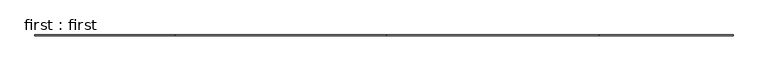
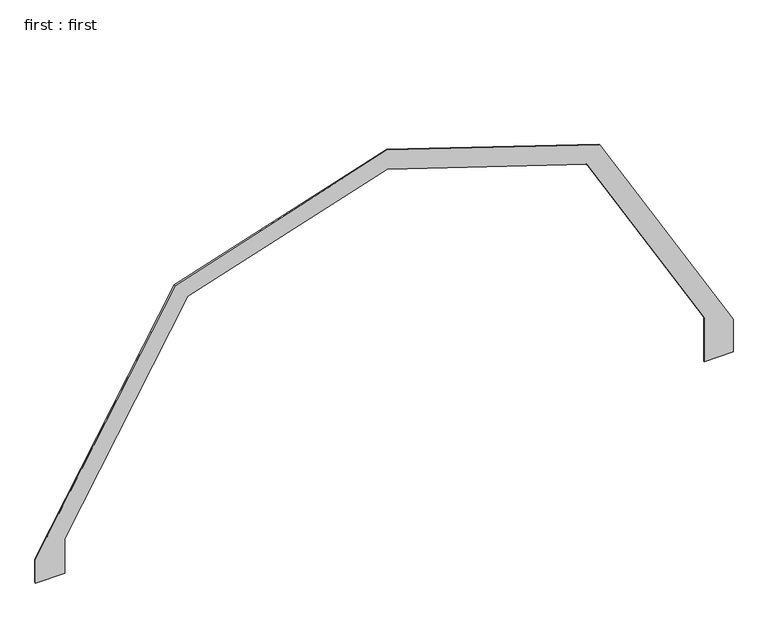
"""IFC4 building model written with IfcOpenShell, lengths in millimetres: proxy geometry, first : first."""

import ifcopenshell
import ifcopenshell.guid

model = None  # the IFC model being written
_history = None  # IfcOwnerHistory: only IFC2X3 demands one
_inside = {}  # id of a spatial element -> (the spatial element, [elements in it])
_under = {}  # id of a project, library or spatial element -> (it, [spatial elements below it])
_declared = {}  # id of a project -> (the project, [libraries it declares])
_typed = {}  # id of a type object -> (the type object, [elements of that type])
_made_of = {}  # id of a material, layer set ... -> (it, [elements and type objects made of it])


def new_model(schema):
    """Start an empty IFC model of exactly this schema.

    Asked for "IFC4X3", IfcOpenShell would pick the latest addendum, in which some entities
    have other attributes; the version numbers below select the first issue.
    IFC2X3 requires an IfcOwnerHistory on every rooted entity: one is made here for all.
    """
    global model, _history
    if schema == "IFC4X3":
        model = ifcopenshell.file(schema_version=(4, 3, 0, 0))
    else:
        model = ifcopenshell.file(schema=schema)
    _inside.clear()
    _under.clear()
    _declared.clear()
    _typed.clear()
    _made_of.clear()
    _history = None
    if model.schema == "IFC2X3":
        org = make("IfcOrganization", Name="unknown")
        user = make(
            "IfcPersonAndOrganization",
            ThePerson=make("IfcPerson", FamilyName="unknown"),
            TheOrganization=org,
        )
        app = make(
            "IfcApplication",
            ApplicationDeveloper=org,
            Version="unknown",
            ApplicationFullName="unknown",
            ApplicationIdentifier="unknown",
        )
        _history = make(
            "IfcOwnerHistory",
            OwningUser=user,
            OwningApplication=app,
            ChangeAction="ADDED",
            CreationDate=0,
        )
    return model


def make(cls, **values):
    """One entity of the class cls with the attributes given. An attribute that is None is left unset."""
    return model.create_entity(
        cls, **{name: value for name, value in values.items() if value is not None}
    )


def rooted(cls, **values):
    """An entity with a GlobalId (a new one), such as an element, a storey or a relation."""
    return make(cls, GlobalId=ifcopenshell.guid.new(), OwnerHistory=_history, **values)


def si_unit(unit_type, name, prefix=None):
    """IfcSIUnit, for example si_unit("LENGTHUNIT", "METRE", prefix="MILLI")."""
    return make("IfcSIUnit", UnitType=unit_type, Prefix=prefix, Name=name)


def assignment(units):
    """IfcUnitAssignment: the units of a project."""
    return None if units is None else make("IfcUnitAssignment", Units=units)


def point(xyz):
    """IfcCartesianPoint."""
    return None if xyz is None else make("IfcCartesianPoint", Coordinates=xyz)


def direction(xyz):
    """IfcDirection."""
    return None if xyz is None else make("IfcDirection", DirectionRatios=xyz)


def frame(location, z_axis=None, x_axis=None):
    """IfcAxis2Placement3D, a coordinate frame: its origin and axes. An axis left out is left unset."""
    return make(
        "IfcAxis2Placement3D",
        Location=point(location),
        Axis=direction(z_axis),
        RefDirection=direction(x_axis),
    )


def origin():
    """The frame at (0, 0, 0) with its axes left unset."""
    return frame((0.0, 0.0, 0.0))


def place(relative_to, where):
    """IfcLocalPlacement: puts the frame where relative to a parent placement (None: the world)."""
    return make(
        "IfcLocalPlacement", PlacementRelTo=relative_to, RelativePlacement=where
    )


def context(
    kind, dimensions, precision=None, world=None, true_north=None, identifier=None
):
    """IfcGeometricRepresentationContext, for example the 3D "Model" context."""
    return make(
        "IfcGeometricRepresentationContext",
        ContextIdentifier=identifier,
        ContextType=kind,
        CoordinateSpaceDimension=dimensions,
        Precision=precision,
        WorldCoordinateSystem=world,
        TrueNorth=true_north,
    )


def project(units=None, contexts=None):
    """IfcProject with its units and contexts."""
    return rooted(
        "IfcProject",
        Name="project",
        RepresentationContexts=contexts,
        UnitsInContext=assignment(units),
    )


def spatial(cls, under=None, at=None, **own):
    """A site, building, storey or space (cls), placed at a placement, below another one or the project."""
    s = rooted(cls, ObjectPlacement=at, **own)
    if under is not None:
        _under.setdefault(under.id(), (under, []))[1].append(s)
    return s


def polyline(points):
    """IfcPolyline through the points."""
    return make("IfcPolyline", Points=[point(p) for p in points])


def outline(outer, holes=None, kind="AREA"):
    """IfcArbitraryClosedProfileDef: a profile drawn as a closed curve; with holes, ...WithVoids."""
    if holes is None:
        return make("IfcArbitraryClosedProfileDef", ProfileType=kind, OuterCurve=outer)
    return make(
        "IfcArbitraryProfileDefWithVoids",
        ProfileType=kind,
        OuterCurve=outer,
        InnerCurves=holes,
    )


def extrude(swept, where, along, depth):
    """IfcExtrudedAreaSolid: the profile swept, set in the frame where, extruded along a direction by depth."""
    return make(
        "IfcExtrudedAreaSolid",
        SweptArea=swept,
        Position=where,
        ExtrudedDirection=direction(along),
        Depth=depth,
    )


def shape(context_of_items, identifier, shape_type, items):
    """IfcShapeRepresentation: the items that make up one representation, for example the "Body"."""
    return make(
        "IfcShapeRepresentation",
        ContextOfItems=context_of_items,
        RepresentationIdentifier=identifier,
        RepresentationType=shape_type,
        Items=items,
    )


def source(mapping_origin, context_of_items, identifier, shape_type, items):
    """IfcRepresentationMap: a shape defined once, which mapped items show again and again."""
    return make(
        "IfcRepresentationMap",
        MappingOrigin=mapping_origin,
        MappedRepresentation=shape(context_of_items, identifier, shape_type, items),
    )


def transform(
    local_origin,
    x_axis=None,
    y_axis=None,
    z_axis=None,
    scale=None,
    scale2=None,
    scale3=None,
    uniform=True,
):
    """IfcCartesianTransformationOperator3D, or its non-uniform kind. x_axis, y_axis, z_axis: its Axis1, 2, 3."""
    if uniform:
        return make(
            "IfcCartesianTransformationOperator3D",
            Axis1=direction(x_axis),
            Axis2=direction(y_axis),
            LocalOrigin=point(local_origin),
            Scale=scale,
            Axis3=direction(z_axis),
        )
    return make(
        "IfcCartesianTransformationOperator3DnonUniform",
        Axis1=direction(x_axis),
        Axis2=direction(y_axis),
        LocalOrigin=point(local_origin),
        Scale=scale,
        Axis3=direction(z_axis),
        Scale2=scale2,
        Scale3=scale3,
    )


def mapped(mapping_source, mapping_target):
    """IfcMappedItem: shows the shape of a source again, moved by a transform."""
    return make(
        "IfcMappedItem", MappingSource=mapping_source, MappingTarget=mapping_target
    )


def made_of(thing, what):
    """Note that an element or type object is made of a material, layer set ...; save() writes the relation."""
    if what is not None:
        _made_of.setdefault(what.id(), (what, []))[1].append(thing)
    return thing


def element(
    cls,
    number,
    at=None,
    inside=None,
    cuts=None,
    type_object=None,
    material=None,
    context=None,
    identifier="Body",
    shape_type=None,
    held_by="IfcProductDefinitionShape",
    body=None,
    shapes=None,
    **own,
):
    """One element of the class cls, such as IfcWall. Its Tag is "e" and its number.

    at: its placement. inside: the storey or other place that contains it. cuts: it is an
    opening in that element (IfcRelVoidsElement). A single representation is given by context,
    identifier, shape_type and body (its items); several are given by shapes. held_by: the class
    of the entity that holds the representations. save() writes the other relations.
    """
    e = rooted(cls, Tag="e%d" % number, ObjectPlacement=at, **own)
    if body is not None:
        shapes = [shape(context, identifier, shape_type, body)]
    if shapes is not None:
        e.Representation = make(held_by, Representations=shapes)
    if inside is not None:
        _inside.setdefault(inside.id(), (inside, []))[1].append(e)
    if cuts is not None:
        rooted(
            "IfcRelVoidsElement", RelatingBuildingElement=cuts, RelatedOpeningElement=e
        )
    if type_object is not None:
        _typed.setdefault(type_object.id(), (type_object, []))[1].append(e)
    return made_of(e, material)


def aggregate(whole, parts):
    """IfcRelAggregates: a whole, such as a stair, and the parts it consists of."""
    return rooted("IfcRelAggregates", RelatingObject=whole, RelatedObjects=parts)


def save(model, path):
    """Write the relations noted so far, then the file.

    IfcRelAggregates (storeys below a building ...), IfcRelContainedInSpatialStructure (elements
    in a storey), IfcRelDefinesByType, IfcRelAssociatesMaterial and IfcRelDeclares: one each for
    every whole, place, type object, material and project.
    """
    for whole, parts in _under.values():
        aggregate(whole, parts)
    for where, things in _inside.values():
        rooted(
            "IfcRelContainedInSpatialStructure",
            RelatedElements=things,
            RelatingStructure=where,
        )
    for kind, things in _typed.values():
        rooted("IfcRelDefinesByType", RelatedObjects=things, RelatingType=kind)
    for what, things in _made_of.values():
        rooted("IfcRelAssociatesMaterial", RelatedObjects=things, RelatingMaterial=what)
    for by, libraries in _declared.values():
        rooted("IfcRelDeclares", RelatingContext=by, RelatedDefinitions=libraries)
    model.write(path)


def first_first_963d72c4(model_context):
    return source(origin(), model_context, "Body", "SweptSolid", [
        extrude(outline(polyline([(17308.5230625, 2571.9978058), (15874.4631818, -1841.5846805), (10859.1168825, -4743.2922165), (10350.0, -4743.2922165), (10350.0, -4137.1962165), (11107.9606859, -4137.1962165), (15541.4241828, -1572.1461339), (16887.9381728, 2571.9978058), (15541.4515416, 6716.0575439), (11308.6981242, 9162.8037835), (10350.0, 9162.8037835), (10350.0, 9762.8037835), (11070.0, 9762.8037835), (15874.4631818, 6985.5802922), (17308.5230625, 2571.9978058)])), frame((0.0, -11552.3709459, 0.0), z_axis=(0.0, 1.0, 0.0), x_axis=(0.0, 0.0, 1.0)), (0.0, 0.0, 1.0), 20.0),
    ])


if __name__ == "__main__":
    model = new_model("IFC4")
    model_context = context("Model", 3, world=origin())
    ifc_project = project(units=[si_unit("LENGTHUNIT", "METRE", prefix="MILLI")], contexts=[model_context])
    site = spatial("IfcSite", under=ifc_project)
    building = spatial("IfcBuilding", under=site)
    placement = place(None, origin())
    first_first_shape = first_first_963d72c4(model_context)
    element("IfcBuildingElementProxy", 1, Name="first : first", ObjectType="first : first", at=placement, inside=building, context=model_context, shape_type="MappedRepresentation", body=[
        mapped(first_first_shape, transform((0.0, 0.0, 0.0), x_axis=(1.0, 0.0, 0.0), y_axis=(0.0, 1.0, 0.0), z_axis=(0.0, 0.0, 1.0))),
    ])
    save(model, "model.ifc")
